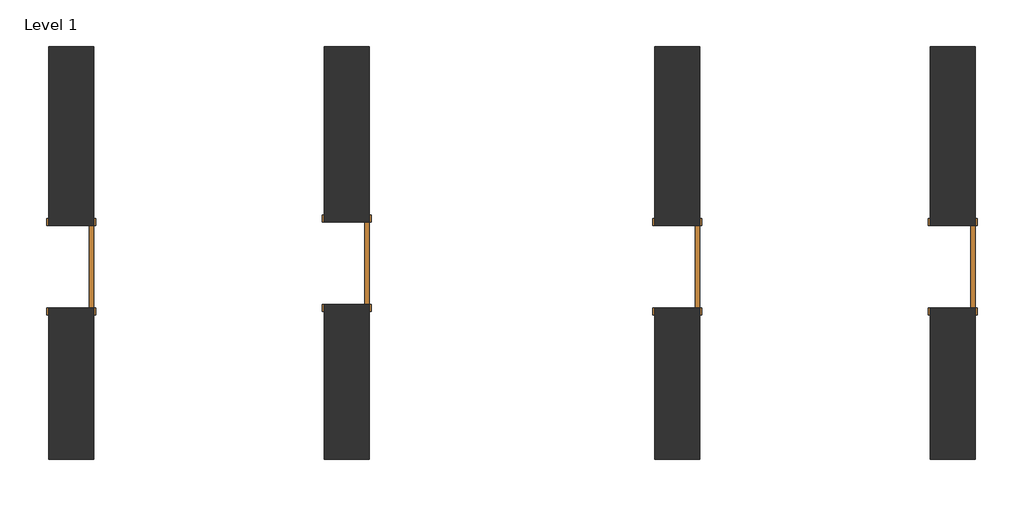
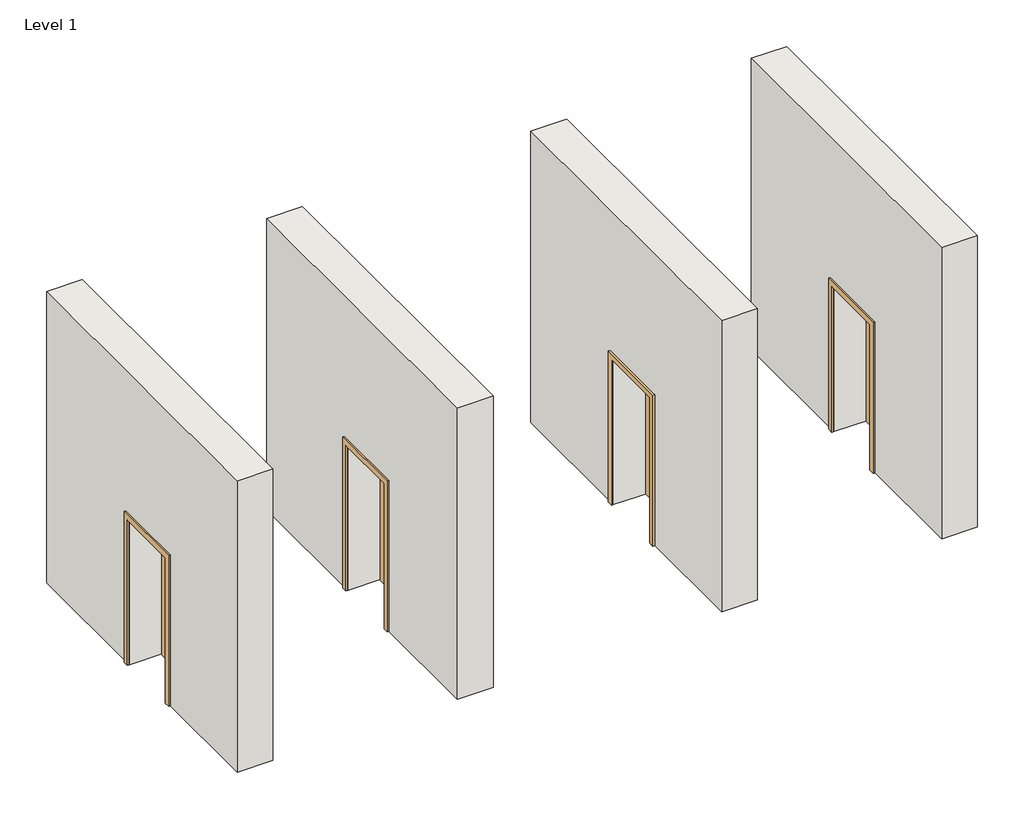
# One storey: 4 doors, 4 walls.
"""IFC4 building model written with IfcOpenShell, lengths in millimetres."""

from ifc_helpers import new_model, si_unit, frame, origin, place, context, project, spatial, polyline, outline, extrude, transform, mapped, element, save
from components import door_88aed75c

model = new_model("IFC4")

# Units and contexts
model_context = context("Model", 3, world=origin())
ifc_project = project(units=[si_unit("LENGTHUNIT", "METRE", prefix="MILLI")], contexts=[model_context])

# Site, building, storey
site = spatial("IfcSite", under=ifc_project)
building = spatial("IfcBuilding", under=site)
storey = spatial("IfcBuildingStorey", under=building, Name="Level 1", Elevation=0.0)

# Doors
placement = place(None, origin())
door_shape = door_88aed75c(model_context)
element("IfcDoor", 1, ObjectType="Single-Flush : 36\" x 84\"", at=placement, inside=storey, context=model_context, shape_type="MappedRepresentation", body=[
    mapped(door_shape, transform((-20341.8735223, 2136.2289236, 0.0), x_axis=(0.0, -1.0, 0.0), y_axis=(1.0, 0.0, 0.0), z_axis=(0.0, 0.0, 1.0))),
])
element("IfcDoor", 2, ObjectType="Single-Flush : 36\" x 84\"", at=placement, inside=storey, context=model_context, shape_type="MappedRepresentation", body=[
    mapped(door_shape, transform((-17293.8735223, 2174.6289236, 0.0), x_axis=(0.0, -1.0, 0.0), y_axis=(1.0, 0.0, 0.0), z_axis=(0.0, 0.0, 1.0))),
])
element("IfcDoor", 3, ObjectType="Single-Flush : 36\" x 84\"", at=placement, inside=storey, context=model_context, shape_type="MappedRepresentation", body=[
    mapped(door_shape, transform((-13636.2735223, 2136.2289236, 0.0), x_axis=(0.0, -1.0, 0.0), y_axis=(1.0, 0.0, 0.0), z_axis=(0.0, 0.0, 1.0))),
])
element("IfcDoor", 4, ObjectType="Single-Flush : 36\" x 84\"", at=placement, inside=storey, context=model_context, shape_type="MappedRepresentation", body=[
    mapped(door_shape, transform((-10588.2735223, 2136.2289236, 0.0), x_axis=(0.0, -1.0, 0.0), y_axis=(1.0, 0.0, 0.0), z_axis=(0.0, 0.0, 1.0))),
])

# Walls
element("IfcWall", 5, ObjectType="Exterior - Brick on CMU", at=placement, inside=storey, context=model_context, shape_type="SweptSolid", body=[
    extrude(outline(polyline([(1679.0289236, 2133.6), (1679.0289236, 0.0), (2.6289236, 0.0), (2.6289236, 4267.2), (4574.6289236, 4267.2), (4574.6289236, 0.0), (2593.4289236, 0.0), (2593.4289236, 2133.6), (1679.0289236, 2133.6)])), frame((-20589.5235223, 0.0, 0.0), z_axis=(1.0, 0.0, 0.0), x_axis=(0.0, 1.0, 0.0)), (0.0, 0.0, 1.0), 495.3),
])
element("IfcWall", 6, ObjectType="Exterior - Brick on CMU", at=placement, inside=storey, context=model_context, shape_type="SweptSolid", body=[
    extrude(outline(polyline([(1717.4289236, 2133.6), (1717.4289236, 0.0), (2.6289236, 0.0), (2.6289236, 4267.2), (4574.6289236, 4267.2), (4574.6289236, 0.0), (2631.8289236, 0.0), (2631.8289236, 2133.6), (1717.4289236, 2133.6)])), frame((-17541.5235223, 0.0, 0.0), z_axis=(1.0, 0.0, 0.0), x_axis=(0.0, 1.0, 0.0)), (0.0, 0.0, 1.0), 495.3),
])
element("IfcWall", 7, ObjectType="Exterior - Brick on CMU", at=placement, inside=storey, context=model_context, shape_type="SweptSolid", body=[
    extrude(outline(polyline([(1679.0289236, 2133.6), (1679.0289236, 0.0), (2.6289236, 0.0), (2.6289236, 4267.2), (4574.6289236, 4267.2), (4574.6289236, 0.0), (2593.4289236, 0.0), (2593.4289236, 2133.6), (1679.0289236, 2133.6)])), frame((-13883.9235223, 0.0, 0.0), z_axis=(1.0, 0.0, 0.0), x_axis=(0.0, 1.0, 0.0)), (0.0, 0.0, 1.0), 495.3),
])
element("IfcWall", 8, ObjectType="Exterior - Brick on CMU", at=placement, inside=storey, context=model_context, shape_type="SweptSolid", body=[
    extrude(outline(polyline([(1679.0289236, 2133.6), (1679.0289236, 0.0), (2.6289236, 0.0), (2.6289236, 4267.2), (4574.6289236, 4267.2), (4574.6289236, 0.0), (2593.4289236, 0.0), (2593.4289236, 2133.6), (1679.0289236, 2133.6)])), frame((-10835.9235223, 0.0, 0.0), z_axis=(1.0, 0.0, 0.0), x_axis=(0.0, 1.0, 0.0)), (0.0, 0.0, 1.0), 495.3),
])

save(model, "model.ifc")
